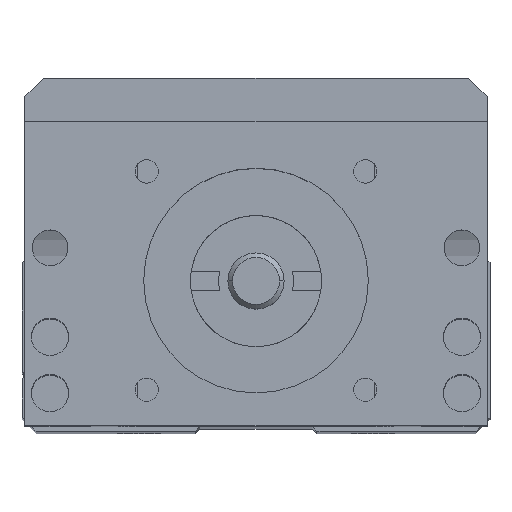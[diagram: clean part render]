
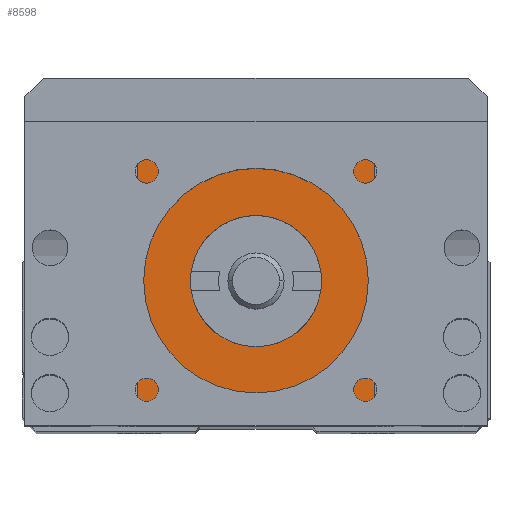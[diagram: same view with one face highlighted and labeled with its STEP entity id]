
A CAD part, top view. The second image highlights one B-rep face of the part: STEP entity #8598.
In plain terms, the highlighted planar face has unit normal (0, 0, 1).
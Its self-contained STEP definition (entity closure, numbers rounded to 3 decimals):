
#1925 = VERTEX_POINT ( 'NONE', #5892 ) ;
#1964 = VERTEX_POINT ( 'NONE', #5941 ) ;
#2001 = EDGE_CURVE ( 'NONE', #1925, #1964, #6016, .T. ) ;
#5892 = CARTESIAN_POINT ( 'NONE',  ( 7., 16., 96.5 ) ) ;
#5941 = CARTESIAN_POINT ( 'NONE',  ( -7., 16., 96.5 ) ) ;
#6016 = CIRCLE ( 'NONE', #6048, 7. ) ;
#6040 = DIRECTION ( 'NONE',  ( -1., 0., 0. ) ) ;
#6041 = DIRECTION ( 'NONE',  ( 0., 0., 1. ) ) ;
#6043 = CARTESIAN_POINT ( 'NONE',  ( 0., 16., 96.5 ) ) ;
#6048 = AXIS2_PLACEMENT_3D ( 'NONE', #6043, #6041, #6040 ) ;
#7840 = CARTESIAN_POINT ( 'NONE',  ( 12.7, 0.5, 96.5 ) ) ;
#7858 = DIRECTION ( 'NONE',  ( -1., 0., 0. ) ) ;
#7859 = DIRECTION ( 'NONE',  ( 0., 0., 1. ) ) ;
#7860 = CARTESIAN_POINT ( 'NONE',  ( 0., 16., 96.5 ) ) ;
#7861 = CARTESIAN_POINT ( 'NONE',  ( -6.008, 0.5, 96.5 ) ) ;
#7862 = LINE ( 'NONE', #7861, #7910 ) ;
#7863 = CIRCLE ( 'NONE', #7872, 7. ) ;
#7864 = DIRECTION ( 'NONE',  ( -1., 0., 0. ) ) ;
#7865 = VECTOR ( 'NONE', #7864, 1000. ) ;
#7866 = CARTESIAN_POINT ( 'NONE',  ( -14.7, 33., 96.5 ) ) ;
#7867 = LINE ( 'NONE', #7866, #7865 ) ;
#7868 = DIRECTION ( 'NONE',  ( 0., 1., 0. ) ) ;
#7869 = VECTOR ( 'NONE', #7868, 1000. ) ;
#7870 = CARTESIAN_POINT ( 'NONE',  ( 12.7, 33., 96.5 ) ) ;
#7871 = LINE ( 'NONE', #7870, #7869 ) ;
#7872 = AXIS2_PLACEMENT_3D ( 'NONE', #7860, #7859, #7858 ) ;
#7873 = DIRECTION ( 'NONE',  ( -1., 0., 0. ) ) ;
#7874 = DIRECTION ( 'NONE',  ( 0., 0., -1. ) ) ;
#7875 = CARTESIAN_POINT ( 'NONE',  ( -14.7, 0., 96.5 ) ) ;
#7876 = AXIS2_PLACEMENT_3D ( 'NONE', #7875, #7874, #7873 ) ;
#7877 = CARTESIAN_POINT ( 'NONE',  ( -12.7, 33., 96.5 ) ) ;
#7878 = FACE_BOUND ( 'NONE', #8602, .T. ) ;
#7879 = PLANE ( 'NONE',  #7876 ) ;
#7880 = FACE_OUTER_BOUND ( 'NONE', #8684, .T. ) ;
#7883 = CARTESIAN_POINT ( 'NONE',  ( 12.7, 33., 96.5 ) ) ;
#7895 = DIRECTION ( 'NONE',  ( 0., -1., 0. ) ) ;
#7896 = VECTOR ( 'NONE', #7895, 1000. ) ;
#7906 = CARTESIAN_POINT ( 'NONE',  ( -12.7, 0.5, 96.5 ) ) ;
#7907 = CARTESIAN_POINT ( 'NONE',  ( -12.7, 0.5, 96.5 ) ) ;
#7908 = LINE ( 'NONE', #7907, #7896 ) ;
#7909 = DIRECTION ( 'NONE',  ( -1., 0., 0. ) ) ;
#7910 = VECTOR ( 'NONE', #7909, 1000. ) ;
#8120 = VERTEX_POINT ( 'NONE', #7840 ) ;
#8598 = ADVANCED_FACE ( 'NONE', ( #7880, #7878 ), #7879, .F. ) ;
#8600 = ORIENTED_EDGE ( 'NONE', *, *, #8694, .T. ) ;
#8601 = ORIENTED_EDGE ( 'NONE', *, *, #8685, .F. ) ;
#8602 = EDGE_LOOP ( 'NONE', ( #8683, #8679 ) ) ;
#8603 = VERTEX_POINT ( 'NONE', #7877 ) ;
#8604 = EDGE_CURVE ( 'NONE', #8120, #8682, #7871, .T. ) ;
#8677 = EDGE_CURVE ( 'NONE', #8682, #8603, #7867, .T. ) ;
#8679 = ORIENTED_EDGE ( 'NONE', *, *, #2001, .F. ) ;
#8680 = ORIENTED_EDGE ( 'NONE', *, *, #8604, .T. ) ;
#8681 = EDGE_CURVE ( 'NONE', #1964, #1925, #7863, .T. ) ;
#8682 = VERTEX_POINT ( 'NONE', #7883 ) ;
#8683 = ORIENTED_EDGE ( 'NONE', *, *, #8681, .F. ) ;
#8684 = EDGE_LOOP ( 'NONE', ( #8601, #8680, #8693, #8600 ) ) ;
#8685 = EDGE_CURVE ( 'NONE', #8120, #8690, #7862, .T. ) ;
#8690 = VERTEX_POINT ( 'NONE', #7906 ) ;
#8693 = ORIENTED_EDGE ( 'NONE', *, *, #8677, .T. ) ;
#8694 = EDGE_CURVE ( 'NONE', #8603, #8690, #7908, .T. ) ;
